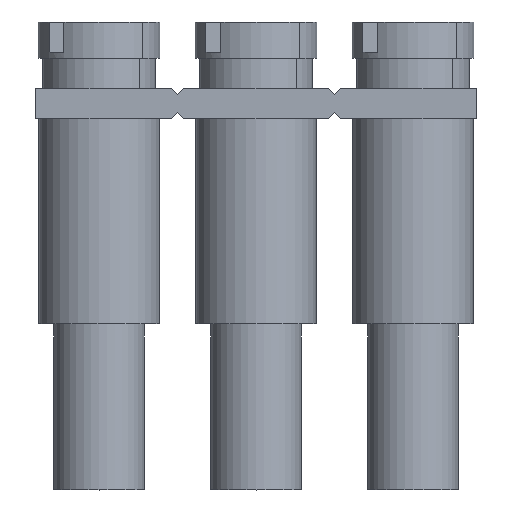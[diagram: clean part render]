
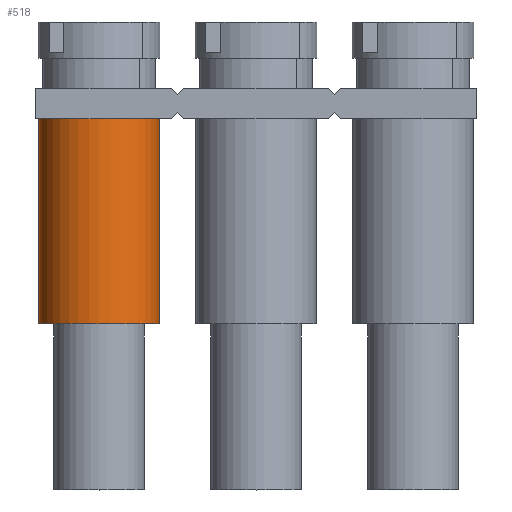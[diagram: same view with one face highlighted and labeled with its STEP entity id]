
A CAD part, top view. The second image highlights one B-rep face of the part: STEP entity #518.
In plain terms, the highlighted cylindrical face has radius 2 mm (diameter 4 mm), a partial arc.
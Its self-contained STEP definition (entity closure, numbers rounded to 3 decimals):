
#182=CARTESIAN_POINT('',(-2.,0.,0.));
#183=VERTEX_POINT('',#182);
#184=CARTESIAN_POINT('',(2.,0.,0.));
#185=VERTEX_POINT('',#184);
#186=CARTESIAN_POINT('',(0.,0.,0.));
#187=DIRECTION('',(-1.,0.,0.));
#188=DIRECTION('',(-0.,1.,0.));
#189=AXIS2_PLACEMENT_3D('',#186,#188,#187);
#190=CIRCLE('',#189,2.);
#191=EDGE_CURVE('',#183,#185,#190,.T.);
#456=CARTESIAN_POINT('',(2.,-6.8,0.));
#457=VERTEX_POINT('',#456);
#458=CARTESIAN_POINT('',(-2.,-6.8,0.));
#459=VERTEX_POINT('',#458);
#460=CARTESIAN_POINT('',(0.,-6.8,0.));
#461=DIRECTION('',(1.,0.,0.));
#462=DIRECTION('',(0.,-1.,0.));
#463=AXIS2_PLACEMENT_3D('',#460,#462,#461);
#464=CIRCLE('',#463,2.);
#465=EDGE_CURVE('',#457,#459,#464,.T.);
#497=CARTESIAN_POINT('',(0.,-8.4,0.));
#498=DIRECTION('',(1.,0.,0.));
#499=DIRECTION('',(0.,1.,0.));
#500=AXIS2_PLACEMENT_3D('',#497,#499,#498);
#501=CYLINDRICAL_SURFACE('',#500,2.);
#502=ORIENTED_EDGE('',*,*,#191,.F.);
#503=CARTESIAN_POINT('',(-2.,0.,0.));
#504=DIRECTION('',(0.,-1.,0.));
#505=VECTOR('',#504,6.8);
#506=LINE('',#503,#505);
#507=EDGE_CURVE('',#183,#459,#506,.T.);
#508=ORIENTED_EDGE('E240',*,*,#507,.T.);
#509=ORIENTED_EDGE('E240',*,*,#465,.F.);
#510=CARTESIAN_POINT('',(2.,0.,0.));
#511=DIRECTION('',(0.,-1.,0.));
#512=VECTOR('',#511,6.8);
#513=LINE('',#510,#512);
#514=EDGE_CURVE('',#185,#457,#513,.T.);
#515=ORIENTED_EDGE('E241',*,*,#514,.F.);
#516=EDGE_LOOP('',(#502,#508,#509,#515));
#517=FACE_OUTER_BOUND('',#516,.T.);
#518=ADVANCED_FACE('F68',(#517),#501,.T.);
